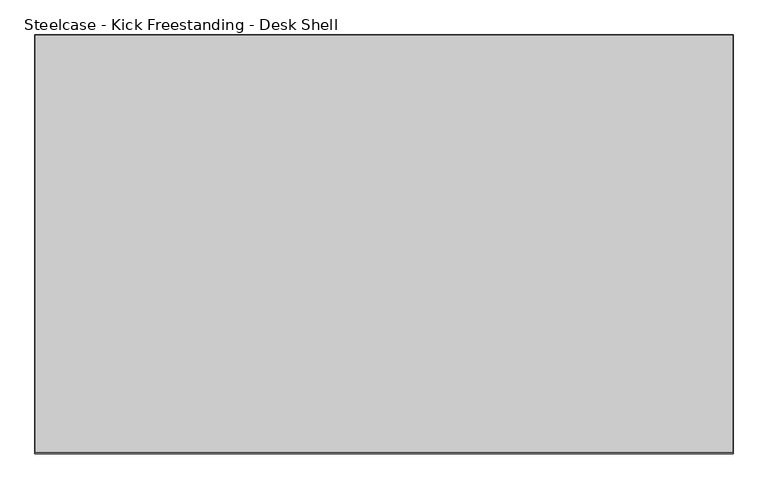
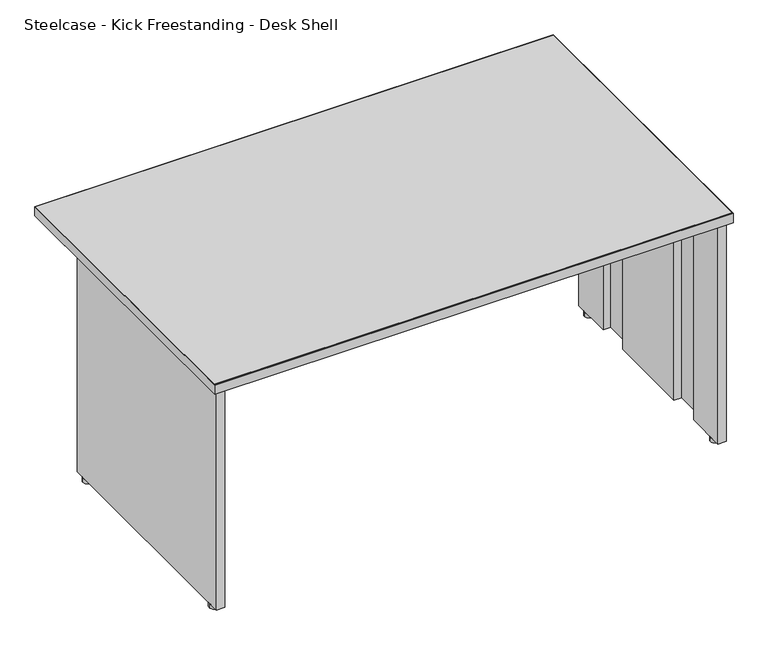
"""IFC4 building model written with IfcOpenShell, lengths in millimetres: furniture geometry, Steelcase - Kick Freestanding - Desk Shell : 36D x 60W."""

import ifcopenshell
import ifcopenshell.guid

model = None  # the IFC model being written
_history = None  # IfcOwnerHistory: only IFC2X3 demands one
_inside = {}  # id of a spatial element -> (the spatial element, [elements in it])
_under = {}  # id of a project, library or spatial element -> (it, [spatial elements below it])
_declared = {}  # id of a project -> (the project, [libraries it declares])
_typed = {}  # id of a type object -> (the type object, [elements of that type])
_made_of = {}  # id of a material, layer set ... -> (it, [elements and type objects made of it])


def new_model(schema):
    """Start an empty IFC model of exactly this schema.

    Asked for "IFC4X3", IfcOpenShell would pick the latest addendum, in which some entities
    have other attributes; the version numbers below select the first issue.
    IFC2X3 requires an IfcOwnerHistory on every rooted entity: one is made here for all.
    """
    global model, _history
    if schema == "IFC4X3":
        model = ifcopenshell.file(schema_version=(4, 3, 0, 0))
    else:
        model = ifcopenshell.file(schema=schema)
    _inside.clear()
    _under.clear()
    _declared.clear()
    _typed.clear()
    _made_of.clear()
    _history = None
    if model.schema == "IFC2X3":
        org = make("IfcOrganization", Name="unknown")
        user = make(
            "IfcPersonAndOrganization",
            ThePerson=make("IfcPerson", FamilyName="unknown"),
            TheOrganization=org,
        )
        app = make(
            "IfcApplication",
            ApplicationDeveloper=org,
            Version="unknown",
            ApplicationFullName="unknown",
            ApplicationIdentifier="unknown",
        )
        _history = make(
            "IfcOwnerHistory",
            OwningUser=user,
            OwningApplication=app,
            ChangeAction="ADDED",
            CreationDate=0,
        )
    return model


def make(cls, **values):
    """One entity of the class cls with the attributes given. An attribute that is None is left unset."""
    return model.create_entity(
        cls, **{name: value for name, value in values.items() if value is not None}
    )


def rooted(cls, **values):
    """An entity with a GlobalId (a new one), such as an element, a storey or a relation."""
    return make(cls, GlobalId=ifcopenshell.guid.new(), OwnerHistory=_history, **values)


def si_unit(unit_type, name, prefix=None):
    """IfcSIUnit, for example si_unit("LENGTHUNIT", "METRE", prefix="MILLI")."""
    return make("IfcSIUnit", UnitType=unit_type, Prefix=prefix, Name=name)


def assignment(units):
    """IfcUnitAssignment: the units of a project."""
    return None if units is None else make("IfcUnitAssignment", Units=units)


def point(xyz):
    """IfcCartesianPoint."""
    return None if xyz is None else make("IfcCartesianPoint", Coordinates=xyz)


def direction(xyz):
    """IfcDirection."""
    return None if xyz is None else make("IfcDirection", DirectionRatios=xyz)


def frame(location, z_axis=None, x_axis=None):
    """IfcAxis2Placement3D, a coordinate frame: its origin and axes. An axis left out is left unset."""
    return make(
        "IfcAxis2Placement3D",
        Location=point(location),
        Axis=direction(z_axis),
        RefDirection=direction(x_axis),
    )


def frame_2d(location, x_axis=None):
    """IfcAxis2Placement2D, a coordinate frame in the plane: its origin and x axis."""
    return make(
        "IfcAxis2Placement2D", Location=point(location), RefDirection=direction(x_axis)
    )


def origin():
    """The frame at (0, 0, 0) with its axes left unset."""
    return frame((0.0, 0.0, 0.0))


def origin_with_axes():
    """The frame at (0, 0, 0) with the z axis (0, 0, 1) and the x axis (1, 0, 0) written out."""
    return frame((0.0, 0.0, 0.0), z_axis=(0.0, 0.0, 1.0), x_axis=(1.0, 0.0, 0.0))


def place(relative_to, where):
    """IfcLocalPlacement: puts the frame where relative to a parent placement (None: the world)."""
    return make(
        "IfcLocalPlacement", PlacementRelTo=relative_to, RelativePlacement=where
    )


def context(
    kind, dimensions, precision=None, world=None, true_north=None, identifier=None
):
    """IfcGeometricRepresentationContext, for example the 3D "Model" context."""
    return make(
        "IfcGeometricRepresentationContext",
        ContextIdentifier=identifier,
        ContextType=kind,
        CoordinateSpaceDimension=dimensions,
        Precision=precision,
        WorldCoordinateSystem=world,
        TrueNorth=true_north,
    )


def project(units=None, contexts=None):
    """IfcProject with its units and contexts."""
    return rooted(
        "IfcProject",
        Name="project",
        RepresentationContexts=contexts,
        UnitsInContext=assignment(units),
    )


def spatial(cls, under=None, at=None, **own):
    """A site, building, storey or space (cls), placed at a placement, below another one or the project."""
    s = rooted(cls, ObjectPlacement=at, **own)
    if under is not None:
        _under.setdefault(under.id(), (under, []))[1].append(s)
    return s


def polyline(points):
    """IfcPolyline through the points."""
    return make("IfcPolyline", Points=[point(p) for p in points])


def circle_curve(where, radius):
    """IfcCircle in the frame where."""
    return make("IfcCircle", Position=where, Radius=radius)


def trimmed(basis, trim1, trim2, sense, master):
    """IfcTrimmedCurve: the piece of a basis curve between two trims."""
    return make(
        "IfcTrimmedCurve",
        BasisCurve=basis,
        Trim1=trim1,
        Trim2=trim2,
        SenseAgreement=sense,
        MasterRepresentation=master,
    )


def segment(curve, same_sense, transition):
    """IfcCompositeCurveSegment."""
    return make(
        "IfcCompositeCurveSegment",
        Transition=transition,
        SameSense=same_sense,
        ParentCurve=curve,
    )


def composite_curve(segments, self_intersect=None):
    """IfcCompositeCurve: segments joined end to end."""
    return make("IfcCompositeCurve", Segments=segments, SelfIntersect=self_intersect)


def outline(outer, holes=None, kind="AREA"):
    """IfcArbitraryClosedProfileDef: a profile drawn as a closed curve; with holes, ...WithVoids."""
    if holes is None:
        return make("IfcArbitraryClosedProfileDef", ProfileType=kind, OuterCurve=outer)
    return make(
        "IfcArbitraryProfileDefWithVoids",
        ProfileType=kind,
        OuterCurve=outer,
        InnerCurves=holes,
    )


def extrude(swept, where, along, depth):
    """IfcExtrudedAreaSolid: the profile swept, set in the frame where, extruded along a direction by depth."""
    return make(
        "IfcExtrudedAreaSolid",
        SweptArea=swept,
        Position=where,
        ExtrudedDirection=direction(along),
        Depth=depth,
    )


def shape(context_of_items, identifier, shape_type, items):
    """IfcShapeRepresentation: the items that make up one representation, for example the "Body"."""
    return make(
        "IfcShapeRepresentation",
        ContextOfItems=context_of_items,
        RepresentationIdentifier=identifier,
        RepresentationType=shape_type,
        Items=items,
    )


def source(mapping_origin, context_of_items, identifier, shape_type, items):
    """IfcRepresentationMap: a shape defined once, which mapped items show again and again."""
    return make(
        "IfcRepresentationMap",
        MappingOrigin=mapping_origin,
        MappedRepresentation=shape(context_of_items, identifier, shape_type, items),
    )


def transform(
    local_origin,
    x_axis=None,
    y_axis=None,
    z_axis=None,
    scale=None,
    scale2=None,
    scale3=None,
    uniform=True,
):
    """IfcCartesianTransformationOperator3D, or its non-uniform kind. x_axis, y_axis, z_axis: its Axis1, 2, 3."""
    if uniform:
        return make(
            "IfcCartesianTransformationOperator3D",
            Axis1=direction(x_axis),
            Axis2=direction(y_axis),
            LocalOrigin=point(local_origin),
            Scale=scale,
            Axis3=direction(z_axis),
        )
    return make(
        "IfcCartesianTransformationOperator3DnonUniform",
        Axis1=direction(x_axis),
        Axis2=direction(y_axis),
        LocalOrigin=point(local_origin),
        Scale=scale,
        Axis3=direction(z_axis),
        Scale2=scale2,
        Scale3=scale3,
    )


def mapped(mapping_source, mapping_target):
    """IfcMappedItem: shows the shape of a source again, moved by a transform."""
    return make(
        "IfcMappedItem", MappingSource=mapping_source, MappingTarget=mapping_target
    )


def made_of(thing, what):
    """Note that an element or type object is made of a material, layer set ...; save() writes the relation."""
    if what is not None:
        _made_of.setdefault(what.id(), (what, []))[1].append(thing)
    return thing


def element(
    cls,
    number,
    at=None,
    inside=None,
    cuts=None,
    type_object=None,
    material=None,
    context=None,
    identifier="Body",
    shape_type=None,
    held_by="IfcProductDefinitionShape",
    body=None,
    shapes=None,
    **own,
):
    """One element of the class cls, such as IfcWall. Its Tag is "e" and its number.

    at: its placement. inside: the storey or other place that contains it. cuts: it is an
    opening in that element (IfcRelVoidsElement). A single representation is given by context,
    identifier, shape_type and body (its items); several are given by shapes. held_by: the class
    of the entity that holds the representations. save() writes the other relations.
    """
    e = rooted(cls, Tag="e%d" % number, ObjectPlacement=at, **own)
    if body is not None:
        shapes = [shape(context, identifier, shape_type, body)]
    if shapes is not None:
        e.Representation = make(held_by, Representations=shapes)
    if inside is not None:
        _inside.setdefault(inside.id(), (inside, []))[1].append(e)
    if cuts is not None:
        rooted(
            "IfcRelVoidsElement", RelatingBuildingElement=cuts, RelatedOpeningElement=e
        )
    if type_object is not None:
        _typed.setdefault(type_object.id(), (type_object, []))[1].append(e)
    return made_of(e, material)


def aggregate(whole, parts):
    """IfcRelAggregates: a whole, such as a stair, and the parts it consists of."""
    return rooted("IfcRelAggregates", RelatingObject=whole, RelatedObjects=parts)


def save(model, path):
    """Write the relations noted so far, then the file.

    IfcRelAggregates (storeys below a building ...), IfcRelContainedInSpatialStructure (elements
    in a storey), IfcRelDefinesByType, IfcRelAssociatesMaterial and IfcRelDeclares: one each for
    every whole, place, type object, material and project.
    """
    for whole, parts in _under.values():
        aggregate(whole, parts)
    for where, things in _inside.values():
        rooted(
            "IfcRelContainedInSpatialStructure",
            RelatedElements=things,
            RelatingStructure=where,
        )
    for kind, things in _typed.values():
        rooted("IfcRelDefinesByType", RelatedObjects=things, RelatingType=kind)
    for what, things in _made_of.values():
        rooted("IfcRelAssociatesMaterial", RelatedObjects=things, RelatingMaterial=what)
    for by, libraries in _declared.values():
        rooted("IfcRelDeclares", RelatingContext=by, RelatedDefinitions=libraries)
    model.write(path)


def steelcase_kick_freestanding_desk_shell_cbac1400(model_context):
    return source(origin(), model_context, "Body", "SweptSolid", [
        extrude(outline(composite_curve([segment(trimmed(circle_curve(frame_2d((665.1357759, -1156.6087877)), 13.97), [point((651.1657759, -1156.6087877))], [point((679.1057759, -1156.6087877))], False, "CARTESIAN"), True, "CONTINUOUS"), segment(trimmed(circle_curve(frame_2d((665.1357759, -1156.6087877)), 13.97), [point((679.1057759, -1156.6087877))], [point((651.1657759, -1156.6087877))], False, "CARTESIAN"), True, "CONTINUOUS")], self_intersect=False)), origin_with_axes(), (0.0, 0.0, 1.0), 12.446),
        extrude(outline(composite_curve([segment(trimmed(circle_curve(frame_2d((665.1357759, -1798.4441481)), 13.97), [point((651.1657759, -1798.4441481))], [point((679.1057759, -1798.4441481))], False, "CARTESIAN"), True, "CONTINUOUS"), segment(trimmed(circle_curve(frame_2d((665.1357759, -1798.4441481)), 13.97), [point((679.1057759, -1798.4441481))], [point((651.1657759, -1798.4441481))], False, "CARTESIAN"), True, "CONTINUOUS")], self_intersect=False)), origin_with_axes(), (0.0, 0.0, 1.0), 12.446),
        extrude(outline(polyline([(2126.6738425, -1248.4529604), (2126.6738425, -1125.1867604), (2151.1594421, -1125.1867604), (2151.1594421, -1833.338741), (2126.6738421, -1833.338741), (2126.6738421, -1709.0311348), (2149.1020425, -1709.0311348), (2149.1020425, -1609.3107682), (2126.6738421, -1609.3107682), (2126.6738421, -1348.1733647), (2149.1020425, -1348.1733647), (2149.1020425, -1248.4529604), (2126.6738425, -1248.4529604)])), frame((0.0, 0.0, 12.446), z_axis=(0.0, 0.0, 1.0), x_axis=(1.0, 0.0, 0.0)), (0.0, 0.0, 1.0), 682.498),
        extrude(outline(polyline([(677.0450425, -1248.4529604), (654.6168425, -1248.4529604), (654.6168425, -1348.1733647), (677.0450429, -1348.1733647), (677.0450429, -1609.3107682), (654.6168425, -1609.3107682), (654.6168425, -1709.0311348), (677.0450429, -1709.0311348), (677.0450429, -1833.338741), (652.5594429, -1833.338741), (652.5594429, -1125.1867604), (677.0450425, -1125.1867604), (677.0450425, -1248.4529604)])), frame((0.0, 0.0, 12.446), z_axis=(0.0, 0.0, 1.0), x_axis=(1.0, 0.0, 0.0)), (0.0, 0.0, 1.0), 682.498),
        extrude(outline(polyline([(2162.8688425, -932.6293604), (2162.8688425, -1843.0669215), (640.8500425, -1843.0669215), (640.8500425, -932.6293604), (2162.8688425, -932.6293604)])), frame((0.0, 0.0, 694.944), z_axis=(0.0, 0.0, 1.0), x_axis=(1.0, 0.0, 0.0)), (0.0, 0.0, 1.0), 28.956),
        extrude(outline(polyline([(2163.8594425, -931.6387604), (2163.8594425, -1846.0387604), (639.8594425, -1846.0387604), (639.8594425, -931.6387604), (2163.8594425, -931.6387604)]), holes=[polyline([(2162.8688425, -932.6293604), (640.8500425, -932.6293604), (640.8500425, -1843.0669215), (2162.8688425, -1843.0669215), (2162.8688425, -932.6293604)])]), frame((0.0, 0.0, 694.944), z_axis=(0.0, 0.0, 1.0), x_axis=(1.0, 0.0, 0.0)), (0.0, 0.0, 1.0), 28.956),
        extrude(outline(composite_curve([segment(trimmed(circle_curve(frame_2d((2138.5831091, -1798.4441481)), 13.97), [point((2124.6131091, -1798.4441481))], [point((2152.5531091, -1798.4441481))], False, "CARTESIAN"), True, "CONTINUOUS"), segment(trimmed(circle_curve(frame_2d((2138.5831091, -1798.4441481)), 13.97), [point((2152.5531091, -1798.4441481))], [point((2124.6131091, -1798.4441481))], False, "CARTESIAN"), True, "CONTINUOUS")], self_intersect=False)), origin_with_axes(), (0.0, 0.0, 1.0), 12.446),
        extrude(outline(composite_curve([segment(trimmed(circle_curve(frame_2d((2138.5831091, -1156.6087877)), 13.97), [point((2152.5531091, -1156.6087877))], [point((2124.6131091, -1156.6087877))], False, "CARTESIAN"), True, "CONTINUOUS"), segment(trimmed(circle_curve(frame_2d((2138.5831091, -1156.6087877)), 13.97), [point((2124.6131091, -1156.6087877))], [point((2152.5531091, -1156.6087877))], False, "CARTESIAN"), True, "CONTINUOUS")], self_intersect=False)), origin_with_axes(), (0.0, 0.0, 1.0), 12.446),
    ])


if __name__ == "__main__":
    model = new_model("IFC4")
    model_context = context("Model", 3, world=origin())
    ifc_project = project(units=[si_unit("LENGTHUNIT", "METRE", prefix="MILLI")], contexts=[model_context])
    site = spatial("IfcSite", under=ifc_project)
    building = spatial("IfcBuilding", under=site)
    placement = place(None, origin())
    steelcase_kick_freestanding_desk_shell_shape = steelcase_kick_freestanding_desk_shell_cbac1400(model_context)
    element("IfcFurniture", 1, ObjectType="Steelcase - Kick Freestanding - Desk Shell : 36D x 60W", at=placement, inside=building, context=model_context, shape_type="MappedRepresentation", body=[
        mapped(steelcase_kick_freestanding_desk_shell_shape, transform((0.0, 0.0, 0.0), x_axis=(1.0, 0.0, 0.0), y_axis=(0.0, 1.0, 0.0), z_axis=(0.0, 0.0, 1.0))),
    ])
    save(model, "model.ifc")
